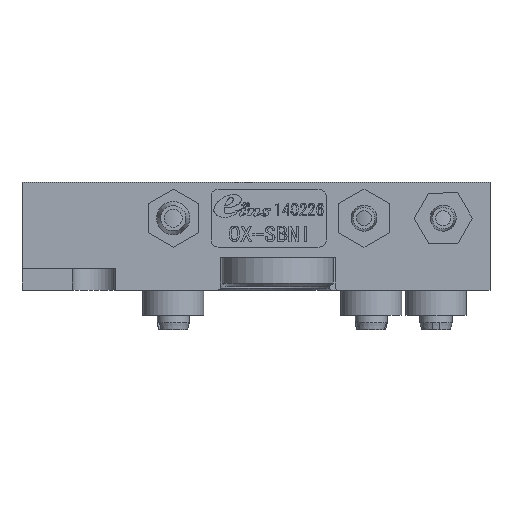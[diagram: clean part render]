
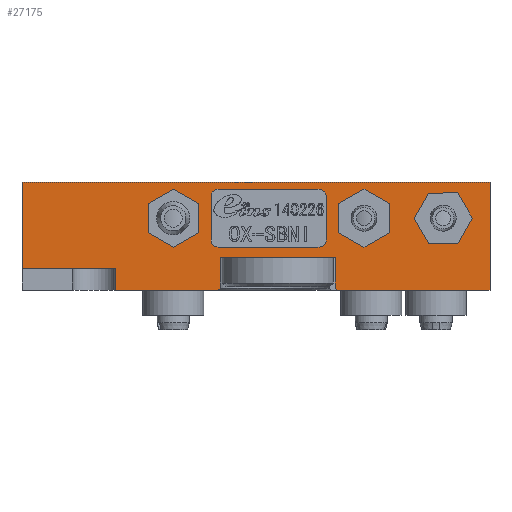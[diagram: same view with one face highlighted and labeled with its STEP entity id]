
A CAD part, left-side view. The second image highlights one B-rep face of the part: STEP entity #27175.
In plain terms, the highlighted planar face has unit normal (-1, 0, 0).
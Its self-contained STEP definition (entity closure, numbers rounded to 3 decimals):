
#760 = VECTOR ( 'NONE', #27805, 1000. ) ;
#835 = LINE ( 'NONE', #21692, #760 ) ;
#1299 = DIRECTION ( 'NONE',  ( 0., 1., 0. ) ) ;
#1795 = DIRECTION ( 'NONE',  ( 0., 0., -1. ) ) ;
#2120 = VECTOR ( 'NONE', #8241, 1000. ) ;
#2245 = LINE ( 'NONE', #14337, #2120 ) ;
#2944 = FACE_BOUND ( 'NONE', #25980, .T. ) ;
#2978 = VERTEX_POINT ( 'NONE', #11084 ) ;
#3229 = EDGE_CURVE ( 'NONE', #15989, #35744, #2245, .T. ) ;
#3356 = DIRECTION ( 'NONE',  ( 0., 0., -1. ) ) ;
#3563 = LINE ( 'NONE', #24831, #37058 ) ;
#4130 = EDGE_CURVE ( 'NONE', #14883, #24750, #34002, .T. ) ;
#4218 = CARTESIAN_POINT ( 'NONE',  ( -46., 37.5, 24.5 ) ) ;
#4249 = PLANE ( 'NONE',  #30631 ) ;
#4484 = VERTEX_POINT ( 'NONE', #21339 ) ;
#4840 = AXIS2_PLACEMENT_3D ( 'NONE', #24859, #6530, #27931 ) ;
#5117 = ORIENTED_EDGE ( 'NONE', *, *, #32884, .T. ) ;
#5339 = ORIENTED_EDGE ( 'NONE', *, *, #19660, .F. ) ;
#6474 = ORIENTED_EDGE ( 'NONE', *, *, #36306, .F. ) ;
#6530 = DIRECTION ( 'NONE',  ( -1., 0., 0. ) ) ;
#6770 = VECTOR ( 'NONE', #18533, 1000. ) ;
#7043 = EDGE_CURVE ( 'NONE', #35744, #31482, #835, .T. ) ;
#7108 = CARTESIAN_POINT ( 'NONE',  ( -46., 0., 35. ) ) ;
#7237 = EDGE_CURVE ( 'NONE', #37528, #37528, #12944, .T. ) ;
#7550 = EDGE_CURVE ( 'NONE', #9663, #18930, #29609, .T. ) ;
#7683 = CARTESIAN_POINT ( 'NONE',  ( -46., 37.5, 24.5 ) ) ;
#7910 = VERTEX_POINT ( 'NONE', #33273 ) ;
#8160 = CARTESIAN_POINT ( 'NONE',  ( -46., 18.1, 16.9 ) ) ;
#8241 = DIRECTION ( 'NONE',  ( 0., 0., 1. ) ) ;
#8850 = LINE ( 'NONE', #35454, #15133 ) ;
#9136 = CARTESIAN_POINT ( 'NONE',  ( -46., 11.4, 46.4 ) ) ;
#9370 = ORIENTED_EDGE ( 'NONE', *, *, #34989, .F. ) ;
#9663 = VERTEX_POINT ( 'NONE', #26163 ) ;
#10491 = DIRECTION ( 'NONE',  ( -1., 0., 0. ) ) ;
#10596 = VERTEX_POINT ( 'NONE', #20386 ) ;
#10635 = ORIENTED_EDGE ( 'NONE', *, *, #7550, .T. ) ;
#10995 = CARTESIAN_POINT ( 'NONE',  ( -46., 17.5, 30. ) ) ;
#11084 = CARTESIAN_POINT ( 'NONE',  ( -46., 37.5, 20.3 ) ) ;
#11290 = LINE ( 'NONE', #34440, #17543 ) ;
#11701 = EDGE_CURVE ( 'NONE', #10596, #7910, #32299, .T. ) ;
#12018 = LINE ( 'NONE', #9136, #20165 ) ;
#12561 = CARTESIAN_POINT ( 'NONE',  ( -46., 65., 23. ) ) ;
#12944 = CIRCLE ( 'NONE', #38373, 2.1 ) ;
#13186 = DIRECTION ( 'NONE',  ( 0., 1., 0. ) ) ;
#13787 = VECTOR ( 'NONE', #1299, 1000. ) ;
#13812 = ORIENTED_EDGE ( 'NONE', *, *, #30737, .F. ) ;
#14100 = DIRECTION ( 'NONE',  ( 0., 0., 1. ) ) ;
#14337 = CARTESIAN_POINT ( 'NONE',  ( -46., 0., 24.5 ) ) ;
#14369 = DIRECTION ( 'NONE',  ( 0., 0., -1. ) ) ;
#14480 = DIRECTION ( 'NONE',  ( -1., 0., 0. ) ) ;
#14883 = VERTEX_POINT ( 'NONE', #19344 ) ;
#15133 = VECTOR ( 'NONE', #14369, 1000. ) ;
#15245 = LINE ( 'NONE', #4218, #37554 ) ;
#15318 = ORIENTED_EDGE ( 'NONE', *, *, #30505, .T. ) ;
#15355 = DIRECTION ( 'NONE',  ( 0., -0.707, 0.707 ) ) ;
#15425 = CARTESIAN_POINT ( 'NONE',  ( -46., 52., -85.679 ) ) ;
#15579 = EDGE_LOOP ( 'NONE', ( #13812 ) ) ;
#15923 = ORIENTED_EDGE ( 'NONE', *, *, #4130, .T. ) ;
#15989 = VERTEX_POINT ( 'NONE', #35270 ) ;
#16270 = ORIENTED_EDGE ( 'NONE', *, *, #20040, .F. ) ;
#17089 = VERTEX_POINT ( 'NONE', #7683 ) ;
#17409 = EDGE_CURVE ( 'NONE', #10596, #2978, #12018, .T. ) ;
#17543 = VECTOR ( 'NONE', #13186, 1000. ) ;
#18533 = DIRECTION ( 'NONE',  ( 0., 0., 1. ) ) ;
#18930 = VERTEX_POINT ( 'NONE', #35671 ) ;
#19344 = CARTESIAN_POINT ( 'NONE',  ( -46., 21.5, 20.3 ) ) ;
#19385 = VERTEX_POINT ( 'NONE', #29017 ) ;
#19660 = EDGE_CURVE ( 'NONE', #19385, #17089, #15245, .T. ) ;
#20040 = EDGE_CURVE ( 'NONE', #17089, #2978, #3563, .T. ) ;
#20165 = VECTOR ( 'NONE', #15355, 1000. ) ;
#20386 = CARTESIAN_POINT ( 'NONE',  ( -46., 37.8, 20. ) ) ;
#21339 = CARTESIAN_POINT ( 'NONE',  ( -46., 44., 32.1 ) ) ;
#21692 = CARTESIAN_POINT ( 'NONE',  ( -46., 0., 35. ) ) ;
#22098 = CARTESIAN_POINT ( 'NONE',  ( -46., 21.2, 20. ) ) ;
#23858 = ORIENTED_EDGE ( 'NONE', *, *, #7043, .T. ) ;
#24634 = VERTEX_POINT ( 'NONE', #27181 ) ;
#24750 = VERTEX_POINT ( 'NONE', #22098 ) ;
#24831 = CARTESIAN_POINT ( 'NONE',  ( -46., 37.5, 24.5 ) ) ;
#24859 = CARTESIAN_POINT ( 'NONE',  ( -46., 6.5, 30. ) ) ;
#25980 = EDGE_LOOP ( 'NONE', ( #26139 ) ) ;
#26139 = ORIENTED_EDGE ( 'NONE', *, *, #7237, .F. ) ;
#26163 = CARTESIAN_POINT ( 'NONE',  ( -46., 65., 23. ) ) ;
#26464 = FACE_BOUND ( 'NONE', #15579, .T. ) ;
#26656 = LINE ( 'NONE', #35368, #33752 ) ;
#27175 = ADVANCED_FACE ( 'NONE', ( #35474, #34511, #2944, #26464 ), #4249, .T. ) ;
#27181 = CARTESIAN_POINT ( 'NONE',  ( -46., 6.5, 32.1 ) ) ;
#27346 = ORIENTED_EDGE ( 'NONE', *, *, #11701, .F. ) ;
#27805 = DIRECTION ( 'NONE',  ( 0., 1., 0. ) ) ;
#27931 = DIRECTION ( 'NONE',  ( 0., 0., 1. ) ) ;
#28004 = ORIENTED_EDGE ( 'NONE', *, *, #17409, .T. ) ;
#28808 = ORIENTED_EDGE ( 'NONE', *, *, #32003, .F. ) ;
#29017 = CARTESIAN_POINT ( 'NONE',  ( -46., 21.5, 24.5 ) ) ;
#29187 = VECTOR ( 'NONE', #36914, 1000. ) ;
#29609 = LINE ( 'NONE', #12561, #29187 ) ;
#30505 = EDGE_CURVE ( 'NONE', #19385, #14883, #26656, .T. ) ;
#30532 = AXIS2_PLACEMENT_3D ( 'NONE', #32666, #14480, #35715 ) ;
#30631 = AXIS2_PLACEMENT_3D ( 'NONE', #7108, #10491, #31794 ) ;
#30713 = CARTESIAN_POINT ( 'NONE',  ( -46., 0., 35. ) ) ;
#30737 = EDGE_CURVE ( 'NONE', #24634, #24634, #38056, .T. ) ;
#31482 = VERTEX_POINT ( 'NONE', #32628 ) ;
#31753 = DIRECTION ( 'NONE',  ( 0., 1., 0. ) ) ;
#31794 = DIRECTION ( 'NONE',  ( 0., 0., 1. ) ) ;
#31847 = CARTESIAN_POINT ( 'NONE',  ( -46., 52., 20. ) ) ;
#32003 = EDGE_CURVE ( 'NONE', #15989, #24750, #11290, .T. ) ;
#32188 = EDGE_LOOP ( 'NONE', ( #9370 ) ) ;
#32281 = DIRECTION ( 'NONE',  ( -1., 0., 0. ) ) ;
#32299 = LINE ( 'NONE', #31847, #13787 ) ;
#32401 = ORIENTED_EDGE ( 'NONE', *, *, #3229, .T. ) ;
#32628 = CARTESIAN_POINT ( 'NONE',  ( -46., 65., 35. ) ) ;
#32666 = CARTESIAN_POINT ( 'NONE',  ( -46., 44., 30. ) ) ;
#32884 = EDGE_CURVE ( 'NONE', #31482, #9663, #8850, .T. ) ;
#33273 = CARTESIAN_POINT ( 'NONE',  ( -46., 52., 20. ) ) ;
#33752 = VECTOR ( 'NONE', #1795, 1000. ) ;
#34002 = LINE ( 'NONE', #8160, #34411 ) ;
#34411 = VECTOR ( 'NONE', #35610, 1000. ) ;
#34440 = CARTESIAN_POINT ( 'NONE',  ( -46., 52., 20. ) ) ;
#34511 = FACE_BOUND ( 'NONE', #32188, .T. ) ;
#34989 = EDGE_CURVE ( 'NONE', #4484, #4484, #35516, .T. ) ;
#35270 = CARTESIAN_POINT ( 'NONE',  ( -46., 0., 20. ) ) ;
#35368 = CARTESIAN_POINT ( 'NONE',  ( -46., 21.5, 24.5 ) ) ;
#35454 = CARTESIAN_POINT ( 'NONE',  ( -46., 65., 35. ) ) ;
#35474 = FACE_OUTER_BOUND ( 'NONE', #38458, .T. ) ;
#35516 = CIRCLE ( 'NONE', #30532, 2.1 ) ;
#35610 = DIRECTION ( 'NONE',  ( 0., -0.707, -0.707 ) ) ;
#35671 = CARTESIAN_POINT ( 'NONE',  ( -46., 52., 23. ) ) ;
#35715 = DIRECTION ( 'NONE',  ( 0., 0., 1. ) ) ;
#35744 = VERTEX_POINT ( 'NONE', #30713 ) ;
#36306 = EDGE_CURVE ( 'NONE', #7910, #18930, #39248, .T. ) ;
#36914 = DIRECTION ( 'NONE',  ( 0., -1., 0. ) ) ;
#37058 = VECTOR ( 'NONE', #3356, 1000. ) ;
#37528 = VERTEX_POINT ( 'NONE', #38214 ) ;
#37554 = VECTOR ( 'NONE', #31753, 1000. ) ;
#38056 = CIRCLE ( 'NONE', #4840, 2.1 ) ;
#38214 = CARTESIAN_POINT ( 'NONE',  ( -46., 17.5, 32.1 ) ) ;
#38373 = AXIS2_PLACEMENT_3D ( 'NONE', #10995, #32281, #14100 ) ;
#38458 = EDGE_LOOP ( 'NONE', ( #27346, #28004, #16270, #5339, #15318, #15923, #28808, #32401, #23858, #5117, #10635, #6474 ) ) ;
#39248 = LINE ( 'NONE', #15425, #6770 ) ;
